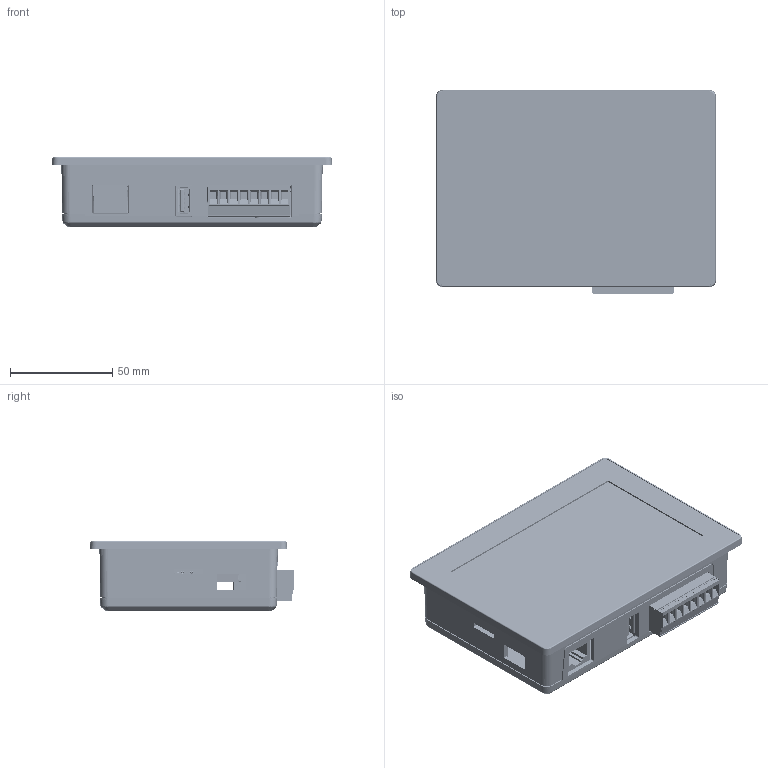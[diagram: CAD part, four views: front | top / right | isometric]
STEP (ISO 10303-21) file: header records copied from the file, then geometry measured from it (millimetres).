
FILE_DESCRIPTION(/* description */ (''),/* implementation_level */ '2;1');
FILE_NAME(/* name */ '5p_15102024_RTP_web.stp',/* time_stamp */ '2025-04-30T16:48:43+02:00',/* author */ ('ut3'),/* organization */ (''),/* preprocessor_version */ 'ST-DEVELOPER v20',/* originating_system */ 'Autodesk Inventor 2025',/* authorisation */ '');
FILE_SCHEMA (('AUTOMOTIVE_DESIGN { 1 0 10303 214 3 1 1 }'));
Products named in the file (1): 5p_15102024_Semplifica_1
Bounding box: 136.56 x 99.41 x 34.1 mm (x, y, z)
Volume: 121174.4 mm3; surface area: 169774.9 mm2
Topology: 105 solids, 360 shells, 10054 faces, 27725 edges, 18003 vertices
Faces by surface type: plane 6947, cylinder 2240, bspline 339, sphere 240, cone 159, torus 129
Full cylindrical faces by diameter (mm): 0.345 x1, 0.364 x2, 0.38 x1, 0.4 x9, 0.45 x8, 0.5 x4, 0.625 x1, 0.635 x1, 0.65 x1, 0.8 x7, 1 x4, 1.438 x1, 1.538 x1, 2.02 x1, 2.35 x2, 2.9 x60, 3 x12, 3.2 x4, 3.821 x8, 4 x9, 5 x5, 6.4 x2, 7 x2, 22 x1
Entity records: 378772 total; most frequent: CARTESIAN_POINT 112371, ORIENTED_EDGE 53944, DIRECTION 51354, EDGE_CURVE 27569, LINE 20970, VECTOR 20970, VERTEX_POINT 18005, AXIS2_PLACEMENT_3D 15192
